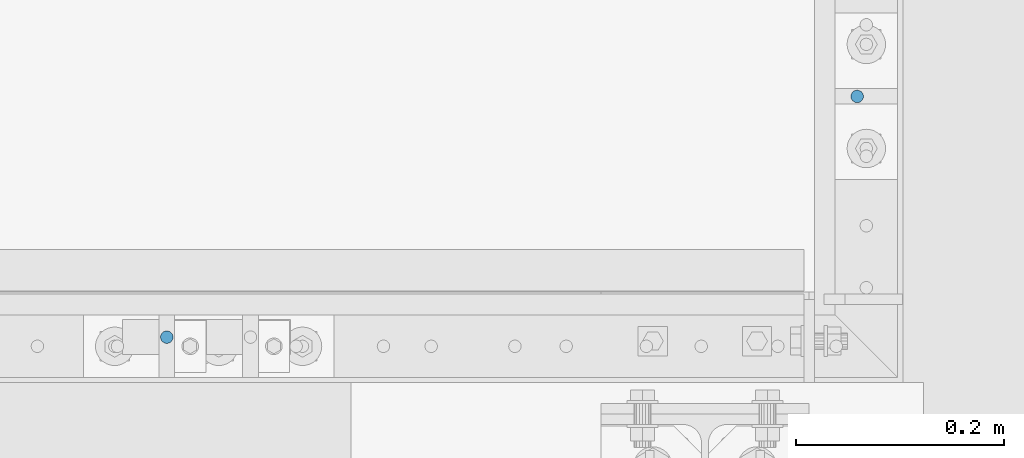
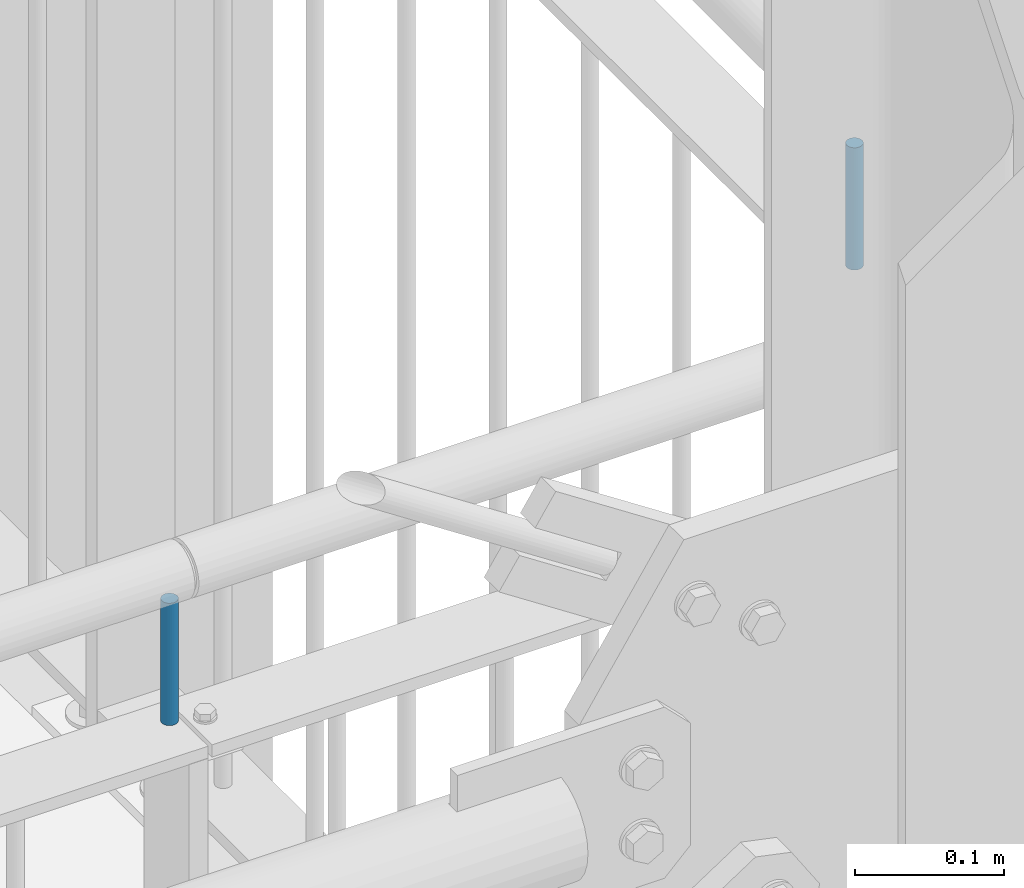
# One storey, part 92 of 831: 2 columns.
"""IFC2X3 building model written with IfcOpenShell, lengths in millimetres."""

from ifc_helpers import new_model, entity, si_unit, converted_unit, frame, origin, origin_with_axes, origin_2d, place, context, project, spatial, circle, extrude, clip, halfspace, material, element, save


model = new_model("IFC2X3")

# Units and contexts
model_context = context("Model", 3, precision=1e-09, world=origin_with_axes())
ifc_project = project(units=[si_unit("LENGTHUNIT", "METRE", prefix="MILLI"), si_unit("AREAUNIT", "SQUARE_METRE"), si_unit("VOLUMEUNIT", "CUBIC_METRE"), converted_unit("PLANEANGLEUNIT", "DEGREE", entity("IfcPlaneAngleMeasure", 0.01745329), si_unit("PLANEANGLEUNIT", "RADIAN"), dimensions=[0, 0, 0, 0, 0, 0, 0])], contexts=[model_context])

# Site, building, storey
site_placement = place(None, origin_with_axes())
site = spatial("IfcSite", under=ifc_project, at=site_placement, Name="Site", CompositionType="ELEMENT")
building_placement = place(site_placement, origin_with_axes())
building = spatial("IfcBuilding", under=site, at=building_placement, Name="Struktur 1", CompositionType="ELEMENT")
storey_placement = place(building_placement, origin_with_axes())
storey = spatial("IfcBuildingStorey", under=building, at=storey_placement, Name="Default Storey", CompositionType="ELEMENT", Elevation=0.0)

# Columns
ifc_material = material(Name="S235JR")
column_1_placement = place(None, frame((9012.913402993, 4766.735971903, 12392.785281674), z_axis=(0.0, 0.0, 1.0), x_axis=(-1.0, 0.0, 0.0)))
element("IfcColumn", 1, at=column_1_placement, inside=storey, material=ifc_material, Name="Bar#7", ObjectType="Bar#7", context=model_context, shape_type="Clipping", body=[
    clip(clip(extrude(circle(Radius=6.0, at=origin_2d()), origin(), (0.0, 0.0, -1.0), 116.970562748), halfspace(frame((9012.913402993, 4766.735971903, -8.486281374), z_axis=(0.0, 0.0, -1.0), x_axis=(1.0, 0.0, 0.0)), True)), halfspace(frame((9012.913402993, 4766.735971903, -108.484281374), z_axis=(0.0, 0.0, 1.0), x_axis=(-1.0, 0.0, 0.0)), True)),
])
column_2_placement = place(None, frame((8349.792260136, 4535.536971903, 12392.785281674), z_axis=(0.0, 0.0, 1.0), x_axis=(0.0, 1.0, 0.0)))
element("IfcColumn", 2, at=column_2_placement, inside=storey, material=ifc_material, Name="Bar#8", ObjectType="Bar#8", context=model_context, shape_type="Clipping", body=[
    clip(clip(extrude(circle(Radius=6.0, at=origin_2d()), origin(), (0.0, 0.0, -1.0), 116.970562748), halfspace(frame((-4535.536971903, 8349.792260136, -8.486281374), z_axis=(0.0, 0.0, -1.0), x_axis=(0.0, 1.0, 0.0)), True)), halfspace(frame((-4535.536971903, 8349.792260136, -108.484281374), z_axis=(0.0, 0.0, 1.0), x_axis=(0.0, -1.0, 0.0)), True)),
])

save(model, "model.ifc")
